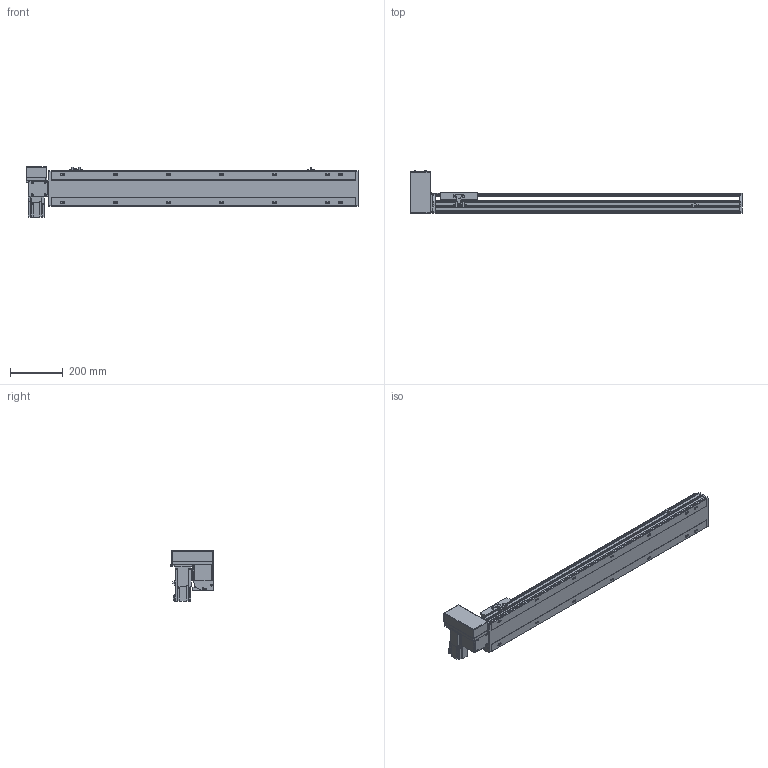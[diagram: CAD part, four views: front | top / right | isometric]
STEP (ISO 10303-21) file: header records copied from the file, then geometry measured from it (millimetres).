
FILE_DESCRIPTION( ( 'STEP AP214' ), '1' );
FILE_NAME( 'x:/temp/worker_4/temp/exporttempdir_2248_101_NmOVF/format_0/PBS140-P40-S900-RU-T40-C1-N(0).stp', '2022-06-07T05:54:14', ( 'License CC BY-ND 4.0' ), ( 'CADENAS' ), ' ', 'PARTsolutions', ' ' );
FILE_SCHEMA( ( 'AUTOMOTIVE_DESIGN { 1 0 10303 214 1 1 1 1 }' ) );
Length unit declared in the file: millimetre
Products named in the file (7): PBS140-P40-S900-RU-T40-C1-N(0); _PBS140-S900()_body; _PBS140T-RU_motors; _T40-p1; _PBS140_sliser; _PBS140_plant; _PBS140_sensor
Assembly tree (8 placements, depth 2):
  PBS140-P40-S900-RU-T40-C1-N(0)
    _PBS140-S900()_body
    _PBS140T-RU_motors
    _T40-p1
    _PBS140_sliser
    _PBS140_plant
    _PBS140_sensor  x3
Bounding box: 1254 x 162.5 x 189.7 mm (x, y, z)
Volume: 6092182.5 mm3; surface area: 1070979.5 mm2
Topology: 8 solids, 8 shells, 1059 faces, 2796 edges, 1827 vertices
Faces by surface type: plane 686, cylinder 323, cone 40, sphere 8, torus 2
Full cylindrical faces by diameter (mm): 3.242 x4, 4 x2, 4.134 x4, 4.4 x8, 4.5 x2, 4.8 x4, 4.917 x22, 5.5 x7, 6 x2, 7 x16, 7.5 x8, 8 x12, 8.5 x4, 10.5 x14, 14 x1, 30 x2, 50 x2
Entity records: 38647 total; most frequent: CARTESIAN_POINT 6083, DIRECTION 5127, ORIENTED_EDGE 4852, EDGE_CURVE 2426, AXIS2_PLACEMENT_3D 1777, VERTEX_POINT 1677, LINE 1573, VECTOR 1573
